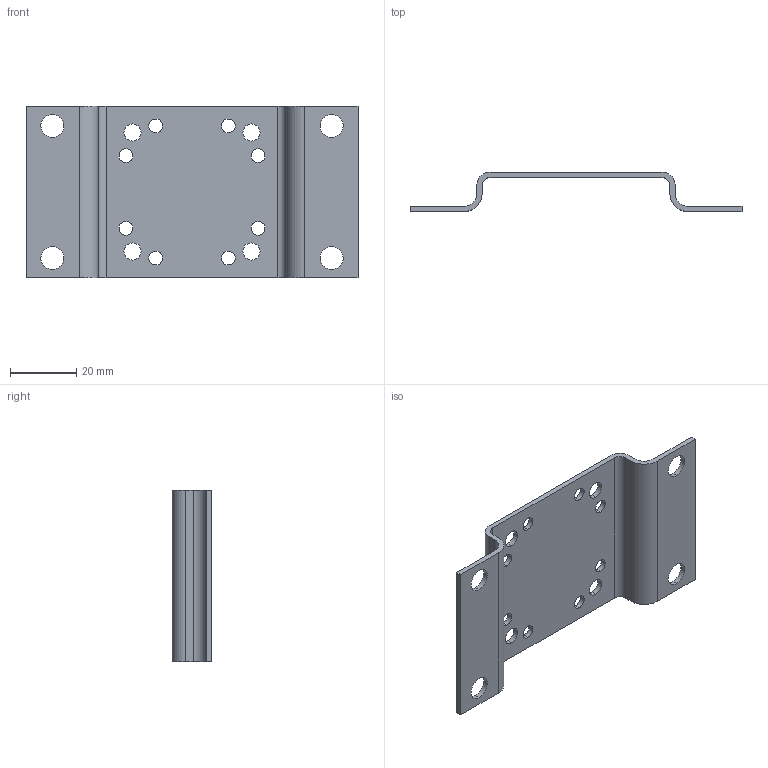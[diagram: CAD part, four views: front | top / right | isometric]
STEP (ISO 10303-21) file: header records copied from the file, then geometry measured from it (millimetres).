
FILE_DESCRIPTION (( 'STEP AP214' ), '1' );
FILE_NAME ('Soporte.STEP', '2021-02-11T17:59:45', ( '' ), ( '' ), 'SwSTEP 2.0', 'SolidWorks 2021', '' );
FILE_SCHEMA (( 'AUTOMOTIVE_DESIGN' ));
Length unit declared in the file: millimetre
Products named in the file (1): Soporte
Bounding box: 100.5 x 12 x 52 mm (x, y, z)
Volume: 8965.4 mm3; surface area: 12151.6 mm2
Topology: 1 solids, 1 shells, 54 faces, 156 edges, 104 vertices
Faces by surface type: cylinder 40, plane 14
Entity records: 2512 total; most frequent: DIRECTION 346, CARTESIAN_POINT 315, ORIENTED_EDGE 312, EDGE_CURVE 156, AXIS2_PLACEMENT_3D 135, VERTEX_POINT 104, EDGE_LOOP 86, CIRCLE 80
